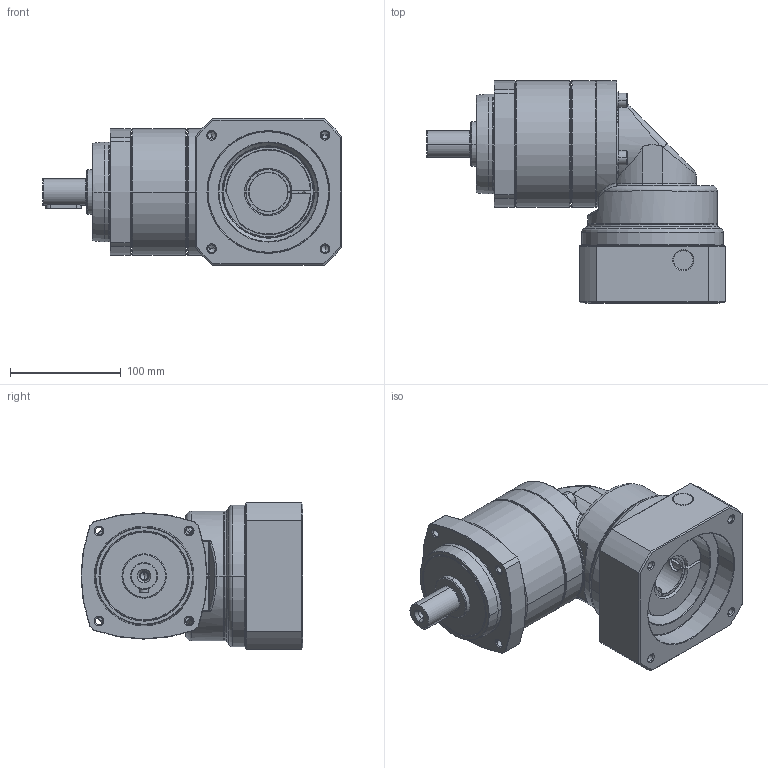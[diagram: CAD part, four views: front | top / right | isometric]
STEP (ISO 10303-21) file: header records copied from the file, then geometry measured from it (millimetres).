
FILE_DESCRIPTION((''),'2;1');
FILE_NAME('PS2R-D_1ST_35-P0411800101_ASM','2016-05-30T',('d01943'),(''),'PRO/ENGINEER BY PARAMETRIC TECHNOLOGY CORPORATION, 2008410','PRO/ENGINEER BY PARAMETRIC TECHNOLOGY CORPORATION, 2008410','');
FILE_SCHEMA(('CONFIG_CONTROL_DESIGN'));
Length unit declared in the file: millimetre
Products named in the file (12): P1328410001; P0250400001; P0350401401; P1349400001; P1017400001; P0713404001; P0503800010; P1350400401; P0411800101; P1702600001; 2111B108035; PS2R-D_1ST_35-P0411800101_ASM
Assembly tree (14 placements, depth 2):
  PS2R-D_1ST_35-P0411800101_ASM
    P1328410001
    P0250400001
    P0350401401
    P1349400001
    P1017400001
    P0713404001
    P0503800010
    P1350400401
    P0411800101
    P1702600001
    2111B108035  x4
Bounding box: 270 x 200.5 x 132 mm (x, y, z)
Volume: 1969584.1 mm3; surface area: 371239.1 mm2
Topology: 14 solids, 14 shells, 704 faces, 1557 edges, 902 vertices
Faces by surface type: cylinder 214, cone 208, plane 154, torus 94, bspline 34
Entity records: 22697 total; most frequent: CARTESIAN_POINT 9121, DIRECTION 2991, ORIENTED_EDGE 2638, EDGE_CURVE 1319, AXIS2_PLACEMENT_3D 1266, VERTEX_POINT 782, EDGE_LOOP 685, CIRCLE 669
